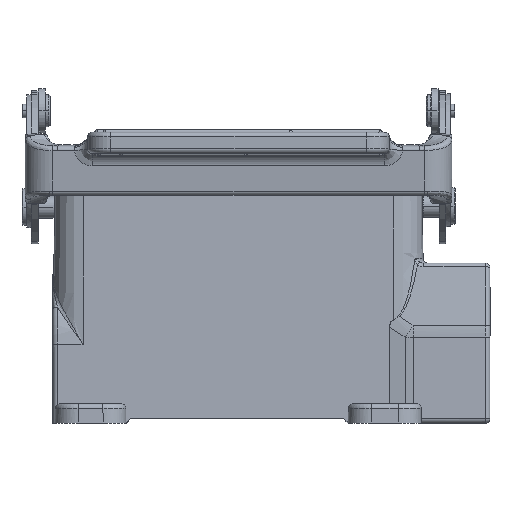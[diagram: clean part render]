
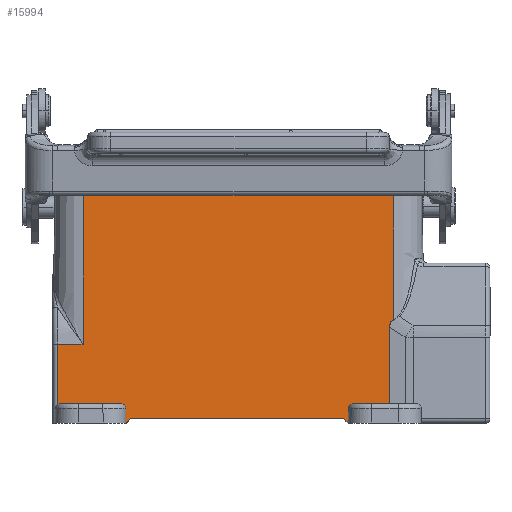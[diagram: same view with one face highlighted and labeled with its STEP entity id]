
A CAD part, top view. The second image highlights one B-rep face of the part: STEP entity #15994.
In plain terms, the highlighted planar face has unit normal (0, 0.018, 1).
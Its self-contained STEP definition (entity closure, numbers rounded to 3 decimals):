
#8=CARTESIAN_POINT('',(34.,-35.81,15.349));
#9=CARTESIAN_POINT('',(33.913,-35.851,15.35));
#10=CARTESIAN_POINT('',(33.749,-35.939,15.351));
#11=CARTESIAN_POINT('',(33.537,-36.091,15.354));
#12=CARTESIAN_POINT('',(33.359,-36.263,15.357));
#13=CARTESIAN_POINT('',(33.213,-36.455,15.36));
#14=CARTESIAN_POINT('',(33.098,-36.666,15.364));
#15=CARTESIAN_POINT('',(33.012,-36.903,15.368));
#16=CARTESIAN_POINT('',(32.955,-37.174,15.373));
#17=CARTESIAN_POINT('',(32.941,-37.384,15.376));
#18=CARTESIAN_POINT('',(32.941,-37.496,15.378));
#36=DIRECTION('',(0.707,-0.707,0.012));
#37=VECTOR('',#36,1.414);
#38=CARTESIAN_POINT('',(23.,-57.5,15.727));
#39=LINE('',#38,#37);
#40=DIRECTION('',(0.707,0.707,-0.012));
#41=VECTOR('',#40,1.414);
#42=CARTESIAN_POINT('',(-24.6,-58.5,15.745));
#43=LINE('',#42,#41);
#44=CARTESIAN_POINT('',(-39.6,-54.469,15.675));
#45=CARTESIAN_POINT('',(-39.432,-54.356,15.673));
#46=CARTESIAN_POINT('',(-39.246,-54.3,15.672));
#47=CARTESIAN_POINT('',(-39.044,-54.3,15.672));
#49=DIRECTION('',(0.,-1.,0.017));
#50=VECTOR('',#49,16.807);
#51=CARTESIAN_POINT('',(32.941,-37.496,15.378));
#52=LINE('',#51,#50);
#93=DIRECTION('',(-1.,0.,0.));
#94=VECTOR('',#93,7.885);
#95=CARTESIAN_POINT('',(32.941,-54.3,15.672));
#96=LINE('',#95,#94);
#235=DIRECTION('',(0.,-1.,0.017));
#236=VECTOR('',#235,33.824);
#237=CARTESIAN_POINT('',(34.,-1.991,14.759));
#238=LINE('',#237,#236);
#549=DIRECTION('',(1.,0.,0.));
#550=VECTOR('',#549,68.);
#551=CARTESIAN_POINT('',(-34.,-1.991,14.759));
#552=LINE('',#551,#550);
#568=DIRECTION('',(0.,1.,-0.017));
#569=VECTOR('',#568,39.245);
#570=CARTESIAN_POINT('',(-34.,-41.23,15.443));
#571=LINE('',#570,#569);
#580=CARTESIAN_POINT('',(-34.,-41.23,15.443));
#652=DIRECTION('',(1.,0.,0.));
#653=VECTOR('',#652,5.6);
#654=CARTESIAN_POINT('',(-39.6,-41.23,15.443));
#655=LINE('',#654,#653);
#661=DIRECTION('',(0.,1.,-0.017));
#662=VECTOR('',#661,13.241);
#663=CARTESIAN_POINT('',(-39.6,-54.469,15.675));
#664=LINE('',#663,#662);
#676=CARTESIAN_POINT('',(-39.6,-54.469,15.675));
#2837=DIRECTION('',(-1.,0.,0.));
#2838=VECTOR('',#2837,46.6);
#2839=CARTESIAN_POINT('',(23.,-57.5,15.727));
#2840=LINE('',#2839,#2838);
#3107=DIRECTION('',(-0.017,-1.,0.017));
#3108=VECTOR('',#3107,3.218);
#3109=CARTESIAN_POINT('',(24.056,-55.283,15.689));
#3110=LINE('',#3109,#3108);
#3123=CARTESIAN_POINT('',(25.056,-54.3,15.672));
#3124=CARTESIAN_POINT('',(24.949,-54.3,15.672));
#3125=CARTESIAN_POINT('',(24.747,-54.332,15.672));
#3126=CARTESIAN_POINT('',(24.464,-54.474,15.675));
#3127=CARTESIAN_POINT('',(24.24,-54.694,15.678));
#3128=CARTESIAN_POINT('',(24.094,-54.974,15.683));
#3129=CARTESIAN_POINT('',(24.058,-55.176,15.687));
#3130=CARTESIAN_POINT('',(24.056,-55.283,15.689));
#13005=DIRECTION('',(-1.,0.,0.));
#13006=VECTOR('',#13005,13.388);
#13007=CARTESIAN_POINT('',(-25.656,-54.3,
15.672));
#13008=LINE('',#13007,#13006);
#13039=DIRECTION('',(-0.017,1.,-0.017));
#13040=VECTOR('',#13039,3.218);
#13041=CARTESIAN_POINT('',(-24.6,-58.5,
15.745));
#13042=LINE('',#13041,#13040);
#13047=CARTESIAN_POINT('',(-24.656,-55.283,
15.689));
#13048=CARTESIAN_POINT('',(-24.658,-55.176,
15.687));
#13049=CARTESIAN_POINT('',(-24.694,-54.974,
15.683));
#13050=CARTESIAN_POINT('',(-24.84,-54.694,
15.678));
#13051=CARTESIAN_POINT('',(-25.064,-54.474,
15.675));
#13052=CARTESIAN_POINT('',(-25.347,-54.332,
15.672));
#13053=CARTESIAN_POINT('',(-25.549,-54.3,
15.672));
#13054=CARTESIAN_POINT('',(-25.656,-54.3,
15.672));
#13317=CARTESIAN_POINT('',(32.941,-37.496,
15.378));
#13319=VERTEX_POINT('',#13317);
#13685=CARTESIAN_POINT('',(-24.6,-58.5,
15.745));
#13687=VERTEX_POINT('',#13685);
#13865=CARTESIAN_POINT('',(32.941,-54.3,
15.672));
#13866=CARTESIAN_POINT('',(25.056,-54.3,
15.672));
#13867=VERTEX_POINT('',#13865);
#13868=VERTEX_POINT('',#13866);
#14215=VERTEX_POINT('',#580);
#14234=CARTESIAN_POINT('',(34.,-1.991,
14.759));
#14235=CARTESIAN_POINT('',(34.,-35.81,
15.349));
#14236=VERTEX_POINT('',#14234);
#14237=VERTEX_POINT('',#14235);
#14255=CARTESIAN_POINT('',(24.056,-55.283,
15.689));
#14256=CARTESIAN_POINT('',(24.,-58.5,
15.745));
#14257=VERTEX_POINT('',#14255);
#14258=VERTEX_POINT('',#14256);
#14912=VERTEX_POINT('',#676);
#14971=CARTESIAN_POINT('',(-34.,-1.991,
14.759));
#14973=VERTEX_POINT('',#14971);
#15226=CARTESIAN_POINT('',(-25.656,-54.3,
15.672));
#15227=VERTEX_POINT('',#15226);
#15266=CARTESIAN_POINT('',(-39.6,-41.23,
15.443));
#15267=VERTEX_POINT('',#15266);
#15441=VERTEX_POINT('',#13047);
#15463=CARTESIAN_POINT('',(-23.6,-57.5,15.727));
#15464=VERTEX_POINT('',#15463);
#15626=CARTESIAN_POINT('',(-39.044,-54.3,
15.672));
#15627=VERTEX_POINT('',#15626);
#15759=CARTESIAN_POINT('',(23.,-57.5,
15.727));
#15760=VERTEX_POINT('',#15759);
#15954=CARTESIAN_POINT('',(-2.8,-30.246,
15.252));
#15955=DIRECTION('',(0.,0.017,1.));
#15956=DIRECTION('',(0.,-1.,0.017));
#15957=AXIS2_PLACEMENT_3D('',#15954,#15955,#15956);
#15958=PLANE('',#15957);
#15959=ORIENTED_EDGE('',*,*,#15944,.T.);
#15961=ORIENTED_EDGE('',*,*,#15960,.T.);
#15963=ORIENTED_EDGE('',*,*,#15962,.T.);
#15965=ORIENTED_EDGE('',*,*,#15964,.T.);
#15967=ORIENTED_EDGE('',*,*,#15966,.T.);
#15969=ORIENTED_EDGE('',*,*,#15968,.F.);
#15971=ORIENTED_EDGE('',*,*,#15970,.T.);
#15973=ORIENTED_EDGE('',*,*,#15972,.F.);
#15975=ORIENTED_EDGE('',*,*,#15974,.T.);
#15977=ORIENTED_EDGE('',*,*,#15976,.T.);
#15979=ORIENTED_EDGE('',*,*,#15978,.T.);
#15981=ORIENTED_EDGE('',*,*,#15980,.F.);
#15983=ORIENTED_EDGE('',*,*,#15982,.T.);
#15985=ORIENTED_EDGE('',*,*,#15984,.T.);
#15987=ORIENTED_EDGE('',*,*,#15986,.T.);
#15989=ORIENTED_EDGE('',*,*,#15988,.T.);
#15991=ORIENTED_EDGE('',*,*,#15990,.T.);
#15992=EDGE_LOOP('',(#15959,#15961,#15963,#15965,#15967,#15969,#15971,#15973,
#15975,#15977,#15979,#15981,#15983,#15985,#15987,#15989,#15991));
#15993=FACE_OUTER_BOUND('',#15992,.F.);
#15994=ADVANCED_FACE('',(#15993),#15958,.T.);
#19=B_SPLINE_CURVE_WITH_KNOTS('',3,(#8,#9,#10,#11,#12,#13,#14,#15,#16,#17,#18),
.UNSPECIFIED.,.F.,.F.,(4,1,1,1,1,1,1,1,4),(0.,0.125,0.25,0.375,0.5,
0.625,0.75,0.875,1.),.UNSPECIFIED.);
#48=B_SPLINE_CURVE_WITH_KNOTS('',3,(#44,#45,#46,#47),.UNSPECIFIED.,.F.,.F.,(4,
4),(0.,1.),.UNSPECIFIED.);
#3131=B_SPLINE_CURVE_WITH_KNOTS('',3,(#3123,#3124,#3125,#3126,#3127,#3128,#3129,
#3130),.UNSPECIFIED.,.F.,.F.,(4,1,1,1,1,4),(0.,0.2,0.4,0.6,0.8,1.),
.UNSPECIFIED.);
#13055=B_SPLINE_CURVE_WITH_KNOTS('',3,(#13047,#13048,#13049,#13050,#13051,
#13052,#13053,#13054),.UNSPECIFIED.,.F.,.F.,(4,1,1,1,1,4),(0.,0.2,0.4,
0.6,0.8,1.),.UNSPECIFIED.);
#15944=EDGE_CURVE('',#14237,#13319,#19,.T.);
#15960=EDGE_CURVE('',#13319,#13867,#52,.T.);
#15962=EDGE_CURVE('',#13867,#13868,#96,.T.);
#15964=EDGE_CURVE('',#13868,#14257,#3131,.T.);
#15966=EDGE_CURVE('',#14257,#14258,#3110,.T.);
#15968=EDGE_CURVE('',#15760,#14258,#39,.T.);
#15970=EDGE_CURVE('',#15760,#15464,#2840,.T.);
#15972=EDGE_CURVE('',#13687,#15464,#43,.T.);
#15974=EDGE_CURVE('',#13687,#15441,#13042,.T.);
#15976=EDGE_CURVE('',#15441,#15227,#13055,.T.);
#15978=EDGE_CURVE('',#15227,#15627,#13008,.T.);
#15980=EDGE_CURVE('',#14912,#15627,#48,.T.);
#15982=EDGE_CURVE('',#14912,#15267,#664,.T.);
#15984=EDGE_CURVE('',#15267,#14215,#655,.T.);
#15986=EDGE_CURVE('',#14215,#14973,#571,.T.);
#15988=EDGE_CURVE('',#14973,#14236,#552,.T.);
#15990=EDGE_CURVE('',#14236,#14237,#238,.T.);
